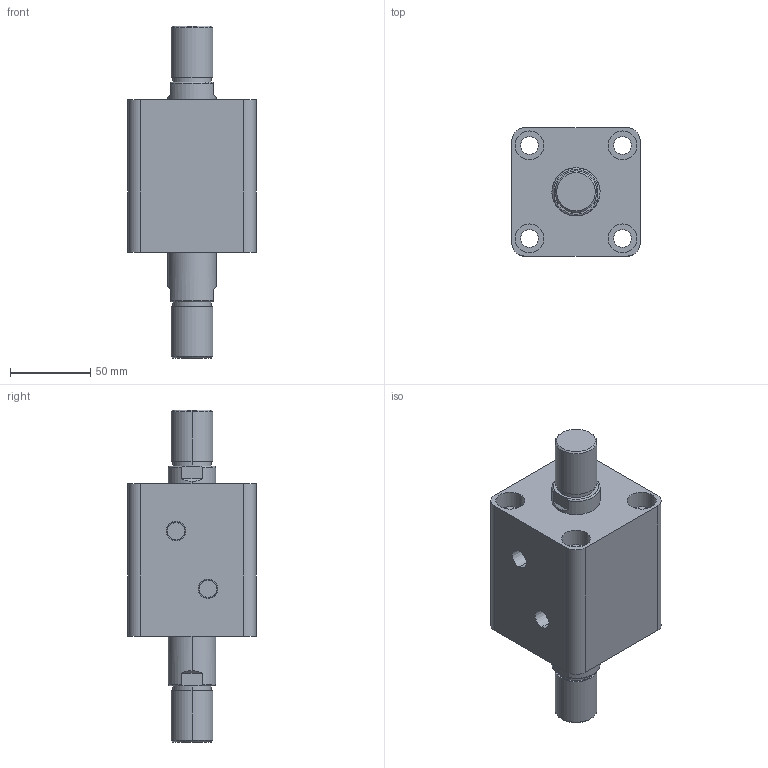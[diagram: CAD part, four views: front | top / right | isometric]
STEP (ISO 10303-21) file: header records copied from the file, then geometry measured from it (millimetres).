
FILE_DESCRIPTION (( 'STEP AP203' ), '1' );
FILE_NAME ('HTB-SW50-20W.STEP', '2019-10-07T09:18:20', ( '微软用户' ), ( '微软中国' ), 'SwSTEP 2.0', 'SolidWorks 2012', '' );
FILE_SCHEMA (( 'CONFIG_CONTROL_DESIGN' ));
Length unit declared in the file: millimetre
Products named in the file (3): HTB-SW50-20W; HTB-SW50-20W活塞杆; HTB-SW50-20掛极
Assembly tree (2 placements, depth 2):
  HTB-SW50-20W
    HTB-SW50-20掛极
    HTB-SW50-20W活塞杆
Bounding box: 80 x 80 x 207 mm (x, y, z)
Volume: 591264.7 mm3; surface area: 93348.9 mm2
Topology: 2 solids, 2 shells, 108 faces, 240 edges, 156 vertices
Faces by surface type: cylinder 52, plane 36, torus 12, cone 8
Entity records: 3449 total; most frequent: CARTESIAN_POINT 629, DIRECTION 586, ORIENTED_EDGE 480, AXIS2_PLACEMENT_3D 249, EDGE_CURVE 240, VERTEX_POINT 156, EDGE_LOOP 138, CIRCLE 136
